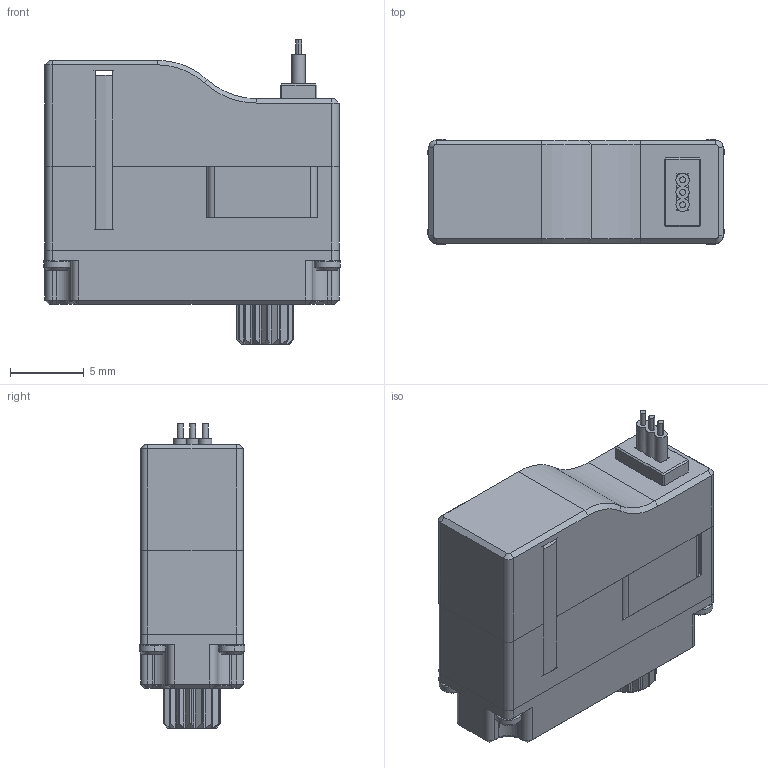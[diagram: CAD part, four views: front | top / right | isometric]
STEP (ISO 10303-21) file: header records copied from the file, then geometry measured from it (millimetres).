
FILE_DESCRIPTION (( 'STEP AP214' ), '1' );
FILE_NAME ('X06N DM.STEP', '2021-02-22T08:42:29', ( '微软用户' ), ( '微软中国' ), 'SwSTEP 2.0', 'SolidWorks 2016', '' );
FILE_SCHEMA (( 'AUTOMOTIVE_DESIGN' ));
Length unit declared in the file: millimetre
Products named in the file (2): X06N DM
Bounding box: 20.2 x 7.2 x 20.7 mm (x, y, z)
Surface area: 1708.8 mm2 (no closed solid volume)
Topology: 0 solids, 13 shells, 319 faces, 1022 edges, 691 vertices
Faces by surface type: plane 171, cylinder 94, cone 46, torus 8
Entity records: 14795 total; most frequent: CARTESIAN_POINT 2175, DIRECTION 1959, ORIENTED_EDGE 1745, EDGE_CURVE 1022, VERTEX_POINT 691, AXIS2_PLACEMENT_3D 663, VECTOR 633, LINE 633
